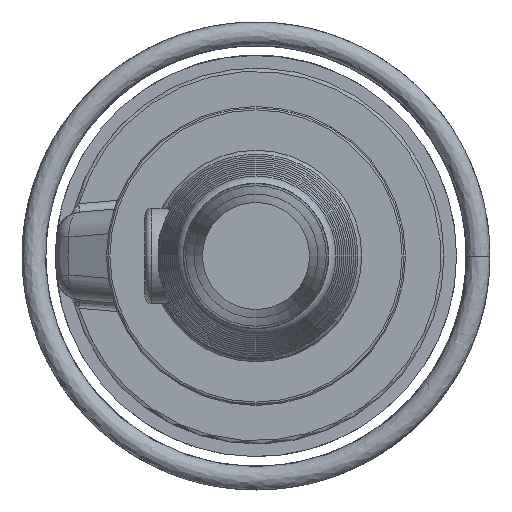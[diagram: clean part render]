
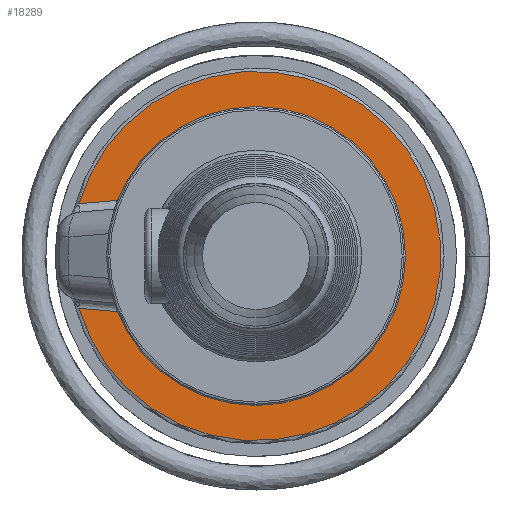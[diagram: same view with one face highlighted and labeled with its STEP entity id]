
A CAD part, left-side view. The second image highlights one B-rep face of the part: STEP entity #18289.
In plain terms, the highlighted planar face has unit normal (-1, 0, 0).
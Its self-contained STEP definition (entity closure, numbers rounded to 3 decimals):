
#871=CIRCLE('',#19645,110.5);
#872=CIRCLE('',#19646,74.);
#2454=PLANE('',#19644);
#3400=FACE_OUTER_BOUND('',#4469,.T.);
#4469=EDGE_LOOP('',(#15987,#15988,#15989,#15990));
#5559=LINE('',#41651,#6610);
#5560=LINE('',#41655,#6611);
#6610=VECTOR('',#23335,10.);
#6611=VECTOR('',#23338,10.);
#8347=VERTEX_POINT('',#41649);
#8348=VERTEX_POINT('',#41650);
#8349=VERTEX_POINT('',#41652);
#8350=VERTEX_POINT('',#41654);
#10906=EDGE_CURVE('',#8347,#8348,#5559,.T.);
#10907=EDGE_CURVE('',#8349,#8347,#871,.T.);
#10908=EDGE_CURVE('',#8350,#8349,#5560,.T.);
#10909=EDGE_CURVE('',#8350,#8348,#872,.T.);
#15987=ORIENTED_EDGE('',*,*,#10906,.F.);
#15988=ORIENTED_EDGE('',*,*,#10907,.F.);
#15989=ORIENTED_EDGE('',*,*,#10908,.F.);
#15990=ORIENTED_EDGE('',*,*,#10909,.T.);
#18289=ADVANCED_FACE('',(#3400),#2454,.T.);
#19644=AXIS2_PLACEMENT_3D('',#41648,#23333,#23334);
#19645=AXIS2_PLACEMENT_3D('',#41653,#23336,#23337);
#19646=AXIS2_PLACEMENT_3D('',#41656,#23339,#23340);
#23333=DIRECTION('center_axis',(-1.,0.,0.));
#23334=DIRECTION('ref_axis',(0.,0.,
1.));
#23335=DIRECTION('',(0.,-0.996,-0.087));
#23336=DIRECTION('center_axis',(1.,0.,0.));
#23337=DIRECTION('ref_axis',(0.,-1.,0.));
#23338=DIRECTION('',(0.,0.996,-0.087));
#23339=DIRECTION('center_axis',(1.,0.,0.));
#23340=DIRECTION('ref_axis',(0.,-1.,0.));
#41648=CARTESIAN_POINT('Origin',(-20.,-92.25,0.));
#41649=CARTESIAN_POINT('',(-20.,105.991,-31.245));
#41650=CARTESIAN_POINT('',(-20.,65.304,-34.804));
#41651=CARTESIAN_POINT('',(-20.,0.632,-40.462));
#41652=CARTESIAN_POINT('',(-20.,105.991,31.245));
#41653=CARTESIAN_POINT('Origin',(-20.,0.,
0.));
#41654=CARTESIAN_POINT('',(-20.,65.304,34.804));
#41655=CARTESIAN_POINT('',(-20.,0.632,40.462));
#41656=CARTESIAN_POINT('Origin',(-20.,0.,
0.));
